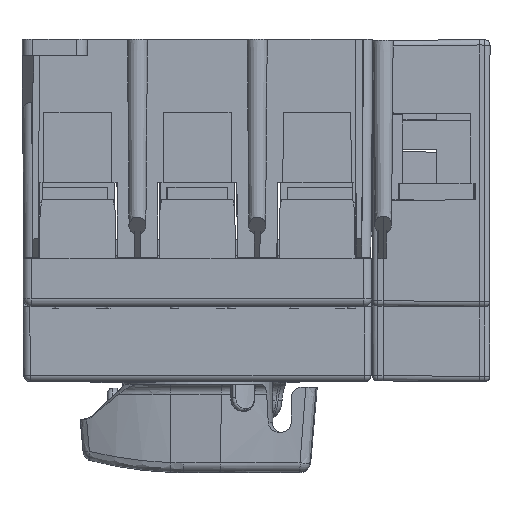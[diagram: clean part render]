
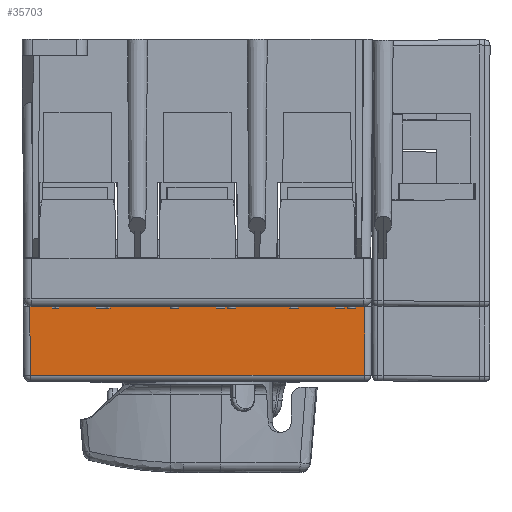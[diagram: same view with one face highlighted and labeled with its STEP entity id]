
A CAD part, left-side view. The second image highlights one B-rep face of the part: STEP entity #35703.
In plain terms, the highlighted planar face has unit normal (-1, 0, -0.009).
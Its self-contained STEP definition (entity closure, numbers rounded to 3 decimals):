
#35348=CARTESIAN_POINT('',(-0.92,150.784,49.055));
#35349=VERTEX_POINT('',#35348);
#35381=CARTESIAN_POINT('',(-1.032,150.895,61.816));
#35382=VERTEX_POINT('',#35381);
#35399=CARTESIAN_POINT('',(-0.92,150.784,49.055));
#35400=DIRECTION('',(-0.009,0.009,1.));
#35401=VECTOR('',#35400,12.762);
#35402=LINE('',#35399,#35401);
#35403=EDGE_CURVE('',#35349,#35382,#35402,.T.);
#35504=CARTESIAN_POINT('',(-0.92,88.306,49.055));
#35505=VERTEX_POINT('',#35504);
#35530=CARTESIAN_POINT('',(-1.032,88.195,61.816));
#35531=VERTEX_POINT('',#35530);
#35539=CARTESIAN_POINT('',(-1.032,88.195,61.816));
#35540=DIRECTION('',(0.009,0.009,-1.));
#35541=VECTOR('',#35540,12.762);
#35542=LINE('',#35539,#35541);
#35543=EDGE_CURVE('',#35531,#35505,#35542,.T.);
#35561=CARTESIAN_POINT('',(-0.92,88.306,49.055));
#35562=DIRECTION('',(0.0,1.0,0.0));
#35563=VECTOR('',#35562,62.477);
#35564=LINE('',#35561,#35563);
#35565=EDGE_CURVE('',#35505,#35349,#35564,.T.);
#35687=CARTESIAN_POINT('',(-1.032,152.145,61.816));
#35688=DIRECTION('',(-1.,0.,-0.009));
#35689=DIRECTION('',(0.009,0.,-1.));
#35690=AXIS2_PLACEMENT_3D('',#35687,#35688,#35689);
#35691=PLANE('',#35690);
#35692=ORIENTED_EDGE('',*,*,#35403,.F.);
#35693=ORIENTED_EDGE('',*,*,#35565,.F.);
#35694=ORIENTED_EDGE('',*,*,#35543,.F.);
#35695=CARTESIAN_POINT('',(-1.032,150.895,61.816));
#35696=DIRECTION('',(0.0,-1.0,0.0));
#35697=VECTOR('',#35696,62.7);
#35698=LINE('',#35695,#35697);
#35699=EDGE_CURVE('',#35382,#35531,#35698,.T.);
#35700=ORIENTED_EDGE('',*,*,#35699,.F.);
#35701=EDGE_LOOP('',(#35692,#35693,#35694,#35700));
#35702=FACE_OUTER_BOUND('',#35701,.T.);
#35703=ADVANCED_FACE('',(#35702),#35691,.T.);
